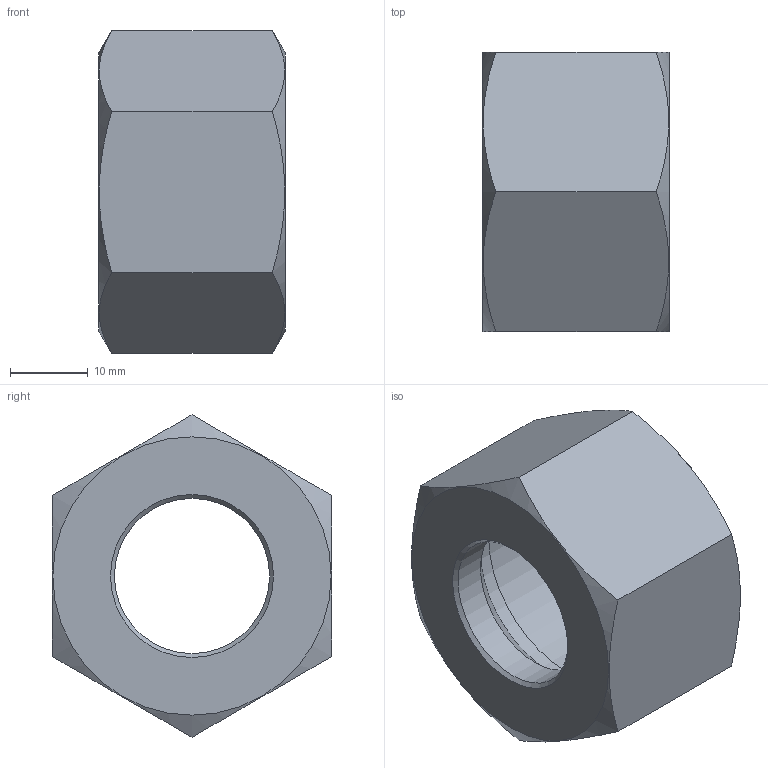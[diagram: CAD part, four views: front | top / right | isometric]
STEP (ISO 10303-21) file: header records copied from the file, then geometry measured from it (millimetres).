
FILE_DESCRIPTION( ( 'Unknown' ), '1' );
FILE_NAME( 'C:/Users/p.nanko/Desktop/3D SR/M20S.stp', 'Unknown', ( 'Peter Nanko' ), ( 'Armaturen Arndt' ), 'PSStep 14.0', 'Solid Edge ST4', ' ' );
FILE_SCHEMA( ( 'AUTOMOTIVE_DESIGN { 1 0 10303 214 1 1 1 1 }' ) );
Length unit declared in the file: millimetre
Products named in the file (1): 1
Bounding box: 24 x 36 x 41.57 mm (x, y, z)
Volume: 13962.1 mm3; surface area: 6249.2 mm2
Topology: 1 solids, 1 shells, 17 faces, 39 edges, 25 vertices
Faces by surface type: plane 9, cone 5, cylinder 3
Full cylindrical faces by diameter (mm): 20 x1, 27.835 x2
Entity records: 700 total; most frequent: CARTESIAN_POINT 224, DIRECTION 62, ORIENTED_EDGE 56, AXIS2_PLACEMENT_3D 28, EDGE_LOOP 28, EDGE_CURVE 28, VERTEX_POINT 22, FACE_OUTER_BOUND 20
